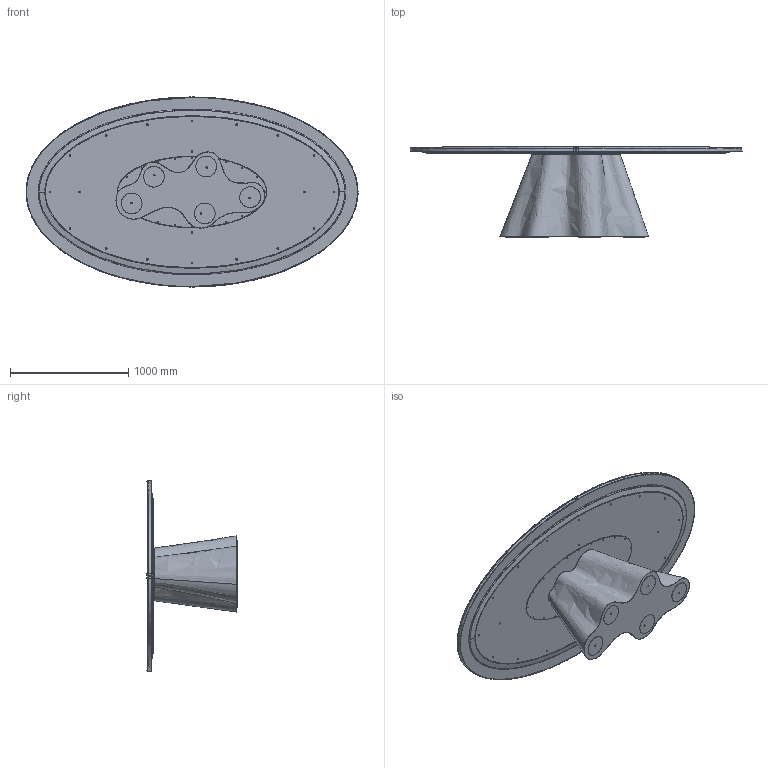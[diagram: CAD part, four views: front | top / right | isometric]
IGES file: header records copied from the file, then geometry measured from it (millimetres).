
Start section: SolidWorks IGES file using analytic representation for surfaces
Global section: file name: \\UTENTI\Dati Utenti\Tecnico\DC\2D - 3D per sito\3D\DeCastelli-3D-Vela.igs; native system: SolidWorks 2022; preprocessor: SolidWorks 2022; author: Silviad; date: 240711.172721; units: millimetre
Bounding box: 2808.6 x 762.23 x 1608.6 mm (x, y, z)
Surface area: 15754425.9 mm2 (no closed solid volume)
Topology: 0 solids, 0 shells, 170 faces, 6353 edges, 6353 vertices
Faces by surface type: bspline 114, revolution 56
